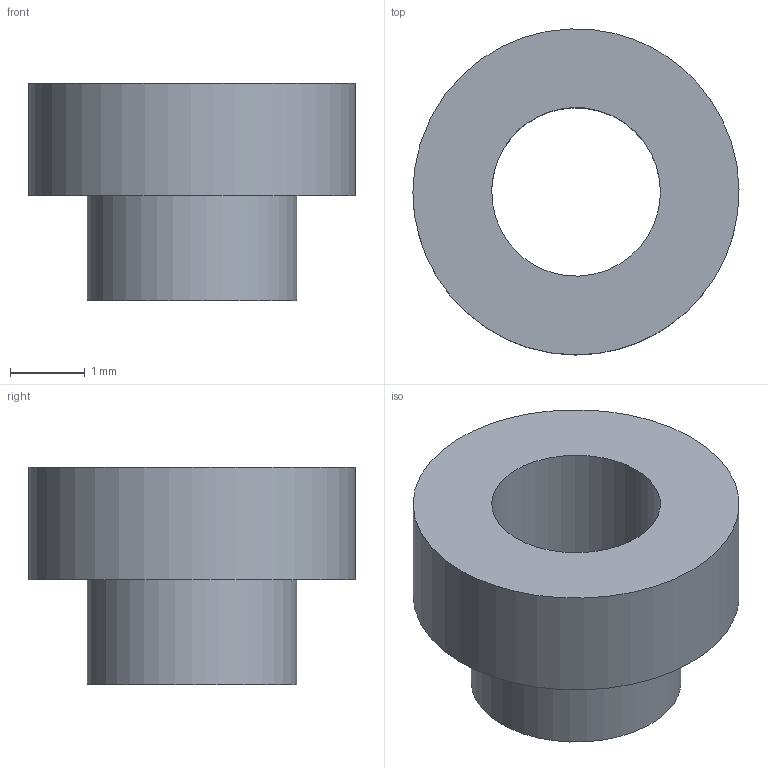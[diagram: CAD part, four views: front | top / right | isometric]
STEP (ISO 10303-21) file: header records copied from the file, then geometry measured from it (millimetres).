
FILE_DESCRIPTION(('FreeCAD Model'),'2;1');
FILE_NAME('Open CASCADE Shape Model','2026-03-20T17:23:02',('Author'),( ''),'Open CASCADE STEP processor 7.8','FreeCAD','Unknown');
FILE_SCHEMA(('AP242_MANAGED_MODEL_BASED_3D_ENGINEERING_MIM_LF. {1 0 10303 442 1 1 4 }'));
Length unit declared in the file: millimetre
Products named in the file (1): 1_transformed
Bounding box: 4.35 x 4.35 x 2.9 mm (x, y, z)
Volume: 19.6 mm3; surface area: 75.2 mm2
Topology: 1 solids, 1 shells, 6 faces, 9 edges, 6 vertices
Faces by surface type: bspline 6
Entity records: 201 total; most frequent: CARTESIAN_POINT 109, ORIENTED_EDGE 18, FACE_BOUND 9, EDGE_LOOP 9, EDGE_CURVE 9, ADVANCED_FACE 6, VERTEX_POINT 6, B_SPLINE_SURFACE_WITH_KNOTS 3
